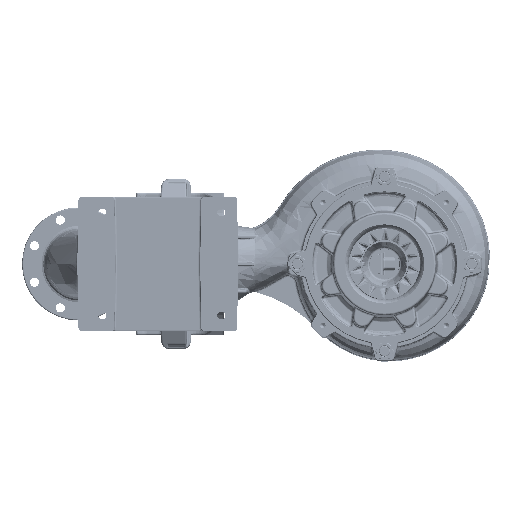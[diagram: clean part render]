
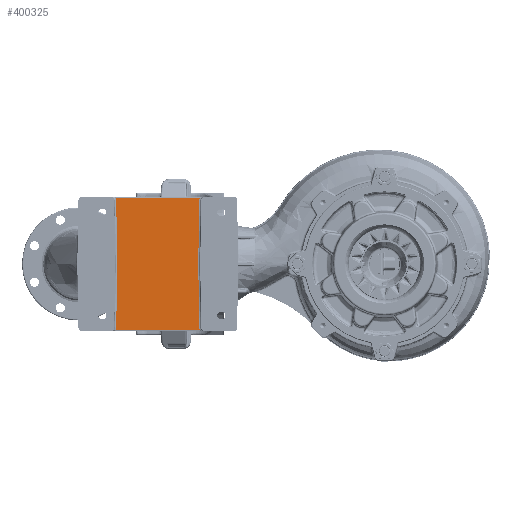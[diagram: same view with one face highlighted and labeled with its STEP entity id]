
A CAD part, front view. The second image highlights one B-rep face of the part: STEP entity #400325.
In plain terms, the highlighted planar face has unit normal (0, -1, 0).
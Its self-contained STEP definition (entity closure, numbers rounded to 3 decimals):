
#4126 = LINE ( 'NONE', #299275, #451276 ) ;
#20110 = VECTOR ( 'NONE', #171825, 1000. ) ;
#21882 = CIRCLE ( 'NONE', #251681, 15. ) ;
#29730 = DIRECTION ( 'NONE',  ( 0., 0., -1. ) ) ;
#39103 = ORIENTED_EDGE ( 'NONE', *, *, #166057, .T. ) ;
#43226 = ORIENTED_EDGE ( 'NONE', *, *, #225166, .T. ) ;
#43811 = DIRECTION ( 'NONE',  ( 0., 0., -1. ) ) ;
#48160 = CARTESIAN_POINT ( 'NONE',  ( -467.171, -642.059, -160.262 ) ) ;
#52389 = ORIENTED_EDGE ( 'NONE', *, *, #303157, .T. ) ;
#54651 = VERTEX_POINT ( 'NONE', #373026 ) ;
#55655 = DIRECTION ( 'NONE',  ( 0.017, 0., -1. ) ) ;
#56754 = DIRECTION ( 'NONE',  ( -0.017, 0., 1. ) ) ;
#65991 = CARTESIAN_POINT ( 'NONE',  ( -452.173, -642.059, 160. ) ) ;
#85347 = CIRCLE ( 'NONE', #191911, 15. ) ;
#89802 = CARTESIAN_POINT ( 'NONE',  ( -678.56, -642.059, -167. ) ) ;
#97652 = VERTEX_POINT ( 'NONE', #349023 ) ;
#103705 = LINE ( 'NONE', #464510, #403834 ) ;
#122862 = DIRECTION ( 'NONE',  ( 0., 0., -1. ) ) ;
#127594 = FACE_OUTER_BOUND ( 'NONE', #251214, .T. ) ;
#127950 = CARTESIAN_POINT ( 'NONE',  ( -674.062, -642.059, 1.71 ) ) ;
#137188 = EDGE_CURVE ( 'NONE', #54651, #198796, #365431, .T. ) ;
#146416 = AXIS2_PLACEMENT_3D ( 'NONE', #456324, #268941, #354094 ) ;
#161222 = LINE ( 'NONE', #396781, #296873 ) ;
#162887 = VERTEX_POINT ( 'NONE', #48160 ) ;
#166057 = EDGE_CURVE ( 'NONE', #324362, #162887, #423872, .T. ) ;
#171825 = DIRECTION ( 'NONE',  ( -0.017, 0., -1. ) ) ;
#179691 = EDGE_CURVE ( 'NONE', #202190, #390153, #21882, .T. ) ;
#181781 = ORIENTED_EDGE ( 'NONE', *, *, #482306, .T. ) ;
#181829 = VERTEX_POINT ( 'NONE', #89802 ) ;
#188908 = VERTEX_POINT ( 'NONE', #234651 ) ;
#191911 = AXIS2_PLACEMENT_3D ( 'NONE', #385635, #308581, #43811 ) ;
#198796 = VERTEX_POINT ( 'NONE', #473193 ) ;
#200961 = CARTESIAN_POINT ( 'NONE',  ( -674.032, -642.059, 0. ) ) ;
#202190 = VERTEX_POINT ( 'NONE', #267605 ) ;
#206324 = CARTESIAN_POINT ( 'NONE',  ( -470.06, -642.059, -5.27 ) ) ;
#223261 = DIRECTION ( 'NONE',  ( 0., 1., 0. ) ) ;
#224816 = LINE ( 'NONE', #206324, #383707 ) ;
#225166 = EDGE_CURVE ( 'NONE', #390153, #54651, #161222, .T. ) ;
#229959 = AXIS2_PLACEMENT_3D ( 'NONE', #463260, #382660, #122862 ) ;
#233504 = AXIS2_PLACEMENT_3D ( 'NONE', #448533, #223261, #264419 ) ;
#234651 = CARTESIAN_POINT ( 'NONE',  ( -676.829, -642.059, -160.262 ) ) ;
#236819 = CARTESIAN_POINT ( 'NONE',  ( -465.44, -642.059, -167. ) ) ;
#236882 = ORIENTED_EDGE ( 'NONE', *, *, #297346, .T. ) ;
#240859 = VECTOR ( 'NONE', #55655, 1000. ) ;
#247530 = CARTESIAN_POINT ( 'NONE',  ( -676.829, -642.059, -160.262 ) ) ;
#251214 = EDGE_LOOP ( 'NONE', ( #253294, #436337, #39103, #181781, #236882, #424857, #43226, #310061, #311007, #52389 ) ) ;
#251681 = AXIS2_PLACEMENT_3D ( 'NONE', #65991, #255017, #29730 ) ;
#253294 = ORIENTED_EDGE ( 'NONE', *, *, #306348, .T. ) ;
#255017 = DIRECTION ( 'NONE',  ( 0., 1., 0. ) ) ;
#264419 = DIRECTION ( 'NONE',  ( 0., 0., -1. ) ) ;
#267605 = CARTESIAN_POINT ( 'NONE',  ( -467.171, -642.059, 160.262 ) ) ;
#268941 = DIRECTION ( 'NONE',  ( 0., -1., 0. ) ) ;
#269524 = DIRECTION ( 'NONE',  ( 1., 0., 0. ) ) ;
#270671 = EDGE_CURVE ( 'NONE', #198796, #445690, #323564, .T. ) ;
#296873 = VECTOR ( 'NONE', #434576, 1000. ) ;
#297346 = EDGE_CURVE ( 'NONE', #97652, #202190, #224816, .T. ) ;
#299275 = CARTESIAN_POINT ( 'NONE',  ( -772., -642.059, -167. ) ) ;
#302763 = LINE ( 'NONE', #247530, #20110 ) ;
#303157 = EDGE_CURVE ( 'NONE', #445690, #188908, #302763, .T. ) ;
#306348 = EDGE_CURVE ( 'NONE', #188908, #181829, #85347, .T. ) ;
#307116 = CARTESIAN_POINT ( 'NONE',  ( -465.44, -642.059, 167. ) ) ;
#308581 = DIRECTION ( 'NONE',  ( 0., 1., 0. ) ) ;
#310061 = ORIENTED_EDGE ( 'NONE', *, *, #137188, .T. ) ;
#311007 = ORIENTED_EDGE ( 'NONE', *, *, #270671, .T. ) ;
#323564 = LINE ( 'NONE', #127950, #240859 ) ;
#324362 = VERTEX_POINT ( 'NONE', #236819 ) ;
#349023 = CARTESIAN_POINT ( 'NONE',  ( -469.968, -642.059, 0. ) ) ;
#354094 = DIRECTION ( 'NONE',  ( 0., 0., -1. ) ) ;
#365431 = CIRCLE ( 'NONE', #229959, 15. ) ;
#373026 = CARTESIAN_POINT ( 'NONE',  ( -678.56, -642.059, 167. ) ) ;
#382660 = DIRECTION ( 'NONE',  ( 0., 1., 0. ) ) ;
#383707 = VECTOR ( 'NONE', #469564, 1000. ) ;
#385635 = CARTESIAN_POINT ( 'NONE',  ( -691.827, -642.059, -160. ) ) ;
#390153 = VERTEX_POINT ( 'NONE', #307116 ) ;
#396781 = CARTESIAN_POINT ( 'NONE',  ( -772., -642.059, 167. ) ) ;
#400325 = ADVANCED_FACE ( 'NONE', ( #127594 ), #418496, .T. ) ;
#403834 = VECTOR ( 'NONE', #56754, 1000. ) ;
#418496 = PLANE ( 'NONE',  #146416 ) ;
#423872 = CIRCLE ( 'NONE', #233504, 15. ) ;
#424857 = ORIENTED_EDGE ( 'NONE', *, *, #179691, .T. ) ;
#434576 = DIRECTION ( 'NONE',  ( -1., 0., 0. ) ) ;
#436337 = ORIENTED_EDGE ( 'NONE', *, *, #436812, .T. ) ;
#436812 = EDGE_CURVE ( 'NONE', #181829, #324362, #4126, .T. ) ;
#445690 = VERTEX_POINT ( 'NONE', #200961 ) ;
#448533 = CARTESIAN_POINT ( 'NONE',  ( -452.173, -642.059, -160. ) ) ;
#451276 = VECTOR ( 'NONE', #269524, 1000. ) ;
#456324 = CARTESIAN_POINT ( 'NONE',  ( -772., -642.059, 0. ) ) ;
#463260 = CARTESIAN_POINT ( 'NONE',  ( -691.827, -642.059, 160. ) ) ;
#464510 = CARTESIAN_POINT ( 'NONE',  ( -469.967, -642.059, -0.087 ) ) ;
#469564 = DIRECTION ( 'NONE',  ( 0.017, 0., 1. ) ) ;
#473193 = CARTESIAN_POINT ( 'NONE',  ( -676.829, -642.059, 160.262 ) ) ;
#482306 = EDGE_CURVE ( 'NONE', #162887, #97652, #103705, .T. ) ;
